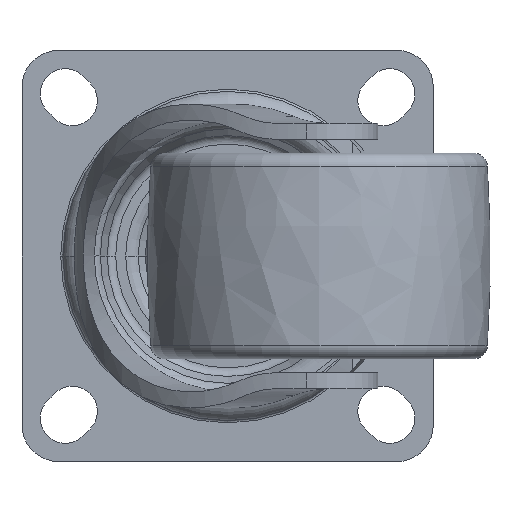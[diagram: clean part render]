
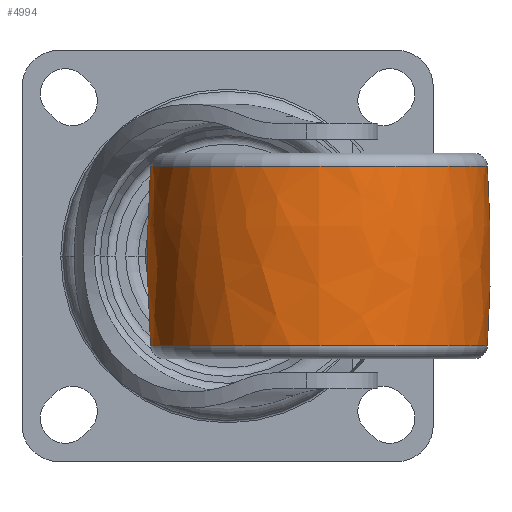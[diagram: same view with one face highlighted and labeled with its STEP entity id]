
A CAD part, front view. The second image highlights one B-rep face of the part: STEP entity #4994.
In plain terms, the highlighted free-form (B-spline) face has degree [3, 3] with [7, 4] control points.
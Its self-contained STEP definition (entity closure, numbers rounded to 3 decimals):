
#4800=CARTESIAN_POINT('',(0.,-262.5,
0.));
#4801=DIRECTION('',(0.,0.,1.));
#4802=DIRECTION('',(0.066,0.998,0.));
#4803=AXIS2_PLACEMENT_3D('',#4800,#4801,#4802);
#4805=CARTESIAN_POINT('',(0.,262.5,
0.));
#4806=DIRECTION('',(0.,0.,-1.));
#4807=DIRECTION('',(0.066,-0.998,0.));
#4808=AXIS2_PLACEMENT_3D('',#4805,#4806,#4807);
#4810=CARTESIAN_POINT('',(19.697,0.,0.));
#4811=DIRECTION('',(-1.,0.,0.));
#4812=DIRECTION('',(0.,1.,0.));
#4813=AXIS2_PLACEMENT_3D('',#4810,#4811,#4812);
#4825=CARTESIAN_POINT('',(-19.697,0.,0.));
#4826=DIRECTION('',(-1.,0.,0.));
#4827=DIRECTION('',(0.,1.,0.));
#4828=AXIS2_PLACEMENT_3D('',#4825,#4826,#4827);
#4893=CARTESIAN_POINT('',(19.697,36.853,0.));
#4894=CARTESIAN_POINT('',(-19.697,36.853,0.));
#4895=VERTEX_POINT('',#4893);
#4896=VERTEX_POINT('',#4894);
#4901=CARTESIAN_POINT('',(19.697,-36.853,0.));
#4902=CARTESIAN_POINT('',(-19.697,-36.853,0.));
#4903=VERTEX_POINT('',#4901);
#4904=VERTEX_POINT('',#4902);
#4957=CARTESIAN_POINT('',(-20.484,-36.727,
2.311));
#4958=CARTESIAN_POINT('',(-6.839,-37.659,
2.369));
#4959=CARTESIAN_POINT('',(6.839,-37.659,2.369));
#4960=CARTESIAN_POINT('',(20.484,-36.727,2.311));
#4961=CARTESIAN_POINT('',(-20.484,-38.149,
-20.291));
#4962=CARTESIAN_POINT('',(-6.839,-39.117,
-20.806));
#4963=CARTESIAN_POINT('',(6.839,-39.117,
-20.806));
#4964=CARTESIAN_POINT('',(20.484,-38.149,
-20.291));
#4965=CARTESIAN_POINT('',(-20.484,-22.647,
-36.8));
#4966=CARTESIAN_POINT('',(-6.839,-23.221,
-37.734));
#4967=CARTESIAN_POINT('',(6.839,-23.221,
-37.734));
#4968=CARTESIAN_POINT('',(20.484,-22.647,
-36.8));
#4969=CARTESIAN_POINT('',(-20.484,0.,
-36.8));
#4970=CARTESIAN_POINT('',(-6.839,0.,-37.734));
#4971=CARTESIAN_POINT('',(6.839,0.,-37.734));
#4972=CARTESIAN_POINT('',(20.484,0.,-36.8));
#4973=CARTESIAN_POINT('',(-20.484,22.647,
-36.8));
#4974=CARTESIAN_POINT('',(-6.839,23.221,
-37.734));
#4975=CARTESIAN_POINT('',(6.839,23.221,-37.734));
#4976=CARTESIAN_POINT('',(20.484,22.647,-36.8));
#4977=CARTESIAN_POINT('',(-20.484,38.149,
-20.291));
#4978=CARTESIAN_POINT('',(-6.839,39.117,
-20.806));
#4979=CARTESIAN_POINT('',(6.839,39.117,-20.806));
#4980=CARTESIAN_POINT('',(20.484,38.149,-20.291));
#4981=CARTESIAN_POINT('',(-20.484,36.727,2.311));
#4982=CARTESIAN_POINT('',(-6.839,37.659,2.369));
#4983=CARTESIAN_POINT('',(6.839,37.659,2.369));
#4984=CARTESIAN_POINT('',(20.484,36.727,2.311));
#4985=(BOUNDED_SURFACE()B_SPLINE_SURFACE(3,3,((#4957,#4958,#4959,#4960),(#4961,
#4962,#4963,#4964),(#4965,#4966,#4967,#4968),(#4969,#4970,#4971,#4972),(#4973,
#4974,#4975,#4976),(#4977,#4978,#4979,#4980),(#4981,#4982,#4983,#4984)),
.UNSPECIFIED.,.F.,.F.,.F.)B_SPLINE_SURFACE_WITH_KNOTS((4,3,4),(4,4),(0.,1.,
2.),(0.,1.),.UNSPECIFIED.)GEOMETRIC_REPRESENTATION_ITEM()RATIONAL_B_SPLINE_SURFACE(((1.189,1.187,1.187,1.189),(
0.939,0.937,0.937,0.939),(
0.939,0.937,0.937,0.939),(
1.189,1.187,1.187,1.189),(
0.939,0.937,0.937,0.939),(
0.939,0.937,0.937,0.939),(
1.189,1.187,1.187,1.189)))REPRESENTATION_ITEM('')SURFACE());
#4986=ORIENTED_EDGE('',*,*,#4946,.T.);
#4988=ORIENTED_EDGE('',*,*,#4987,.T.);
#4989=ORIENTED_EDGE('',*,*,#4950,.F.);
#4991=ORIENTED_EDGE('',*,*,#4990,.F.);
#4992=EDGE_LOOP('',(#4986,#4988,#4989,#4991));
#4993=FACE_OUTER_BOUND('',#4992,.F.);
#4804=CIRCLE('',#4803,300.);
#4809=CIRCLE('',#4808,300.);
#4814=CIRCLE('',#4813,36.853);
#4829=CIRCLE('',#4828,36.853);
#4946=EDGE_CURVE('',#4895,#4896,#4804,.T.);
#4950=EDGE_CURVE('',#4903,#4904,#4809,.T.);
#4987=EDGE_CURVE('',#4896,#4904,#4829,.T.);
#4990=EDGE_CURVE('',#4895,#4903,#4814,.T.);
#4994=ADVANCED_FACE('',(#4993),#4985,.T.);
